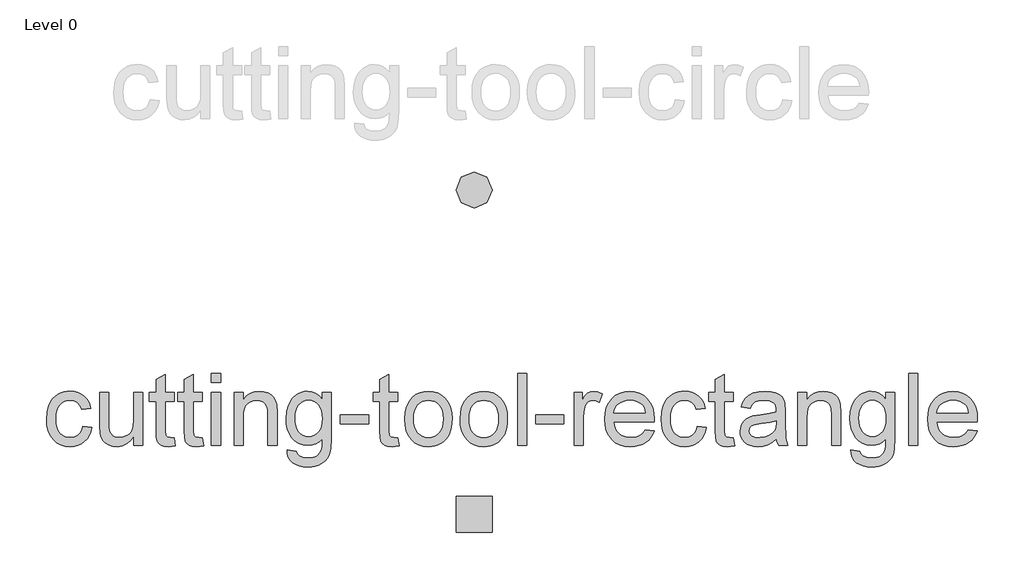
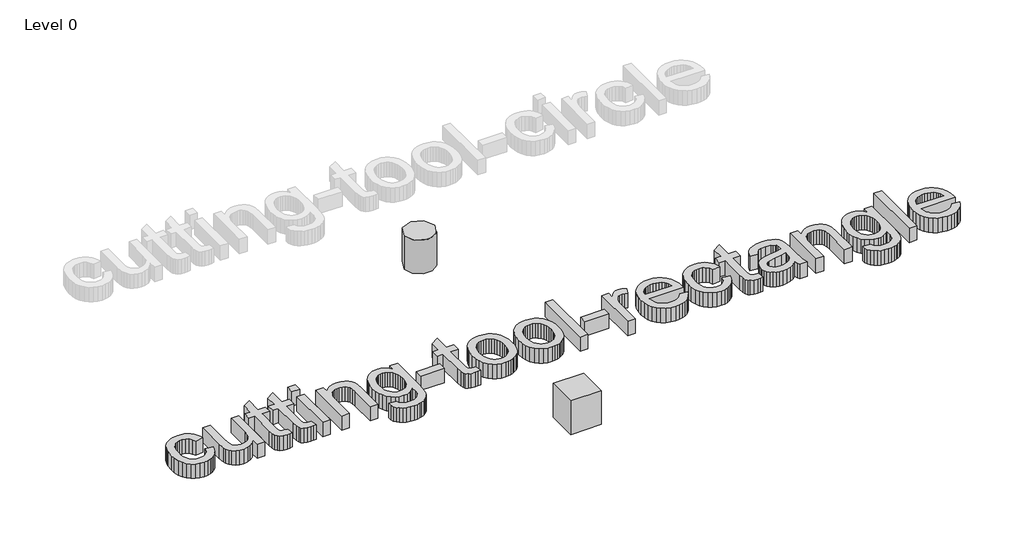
# One storey, part 4 of 5: 3 proxies.
"""IFC4 building model written with IfcOpenShell, lengths in millimetres."""

import ifcopenshell
import ifcopenshell.guid

model = None  # the IFC model being written
_history = None  # IfcOwnerHistory: only IFC2X3 demands one
_inside = {}  # id of a spatial element -> (the spatial element, [elements in it])
_under = {}  # id of a project, library or spatial element -> (it, [spatial elements below it])
_declared = {}  # id of a project -> (the project, [libraries it declares])
_typed = {}  # id of a type object -> (the type object, [elements of that type])
_made_of = {}  # id of a material, layer set ... -> (it, [elements and type objects made of it])


def new_model(schema):
    """Start an empty IFC model of exactly this schema.

    Asked for "IFC4X3", IfcOpenShell would pick the latest addendum, in which some entities
    have other attributes; the version numbers below select the first issue.
    IFC2X3 requires an IfcOwnerHistory on every rooted entity: one is made here for all.
    """
    global model, _history
    if schema == "IFC4X3":
        model = ifcopenshell.file(schema_version=(4, 3, 0, 0))
    else:
        model = ifcopenshell.file(schema=schema)
    _inside.clear()
    _under.clear()
    _declared.clear()
    _typed.clear()
    _made_of.clear()
    _history = None
    if model.schema == "IFC2X3":
        org = make("IfcOrganization", Name="unknown")
        user = make(
            "IfcPersonAndOrganization",
            ThePerson=make("IfcPerson", FamilyName="unknown"),
            TheOrganization=org,
        )
        app = make(
            "IfcApplication",
            ApplicationDeveloper=org,
            Version="unknown",
            ApplicationFullName="unknown",
            ApplicationIdentifier="unknown",
        )
        _history = make(
            "IfcOwnerHistory",
            OwningUser=user,
            OwningApplication=app,
            ChangeAction="ADDED",
            CreationDate=0,
        )
    return model


def make(cls, **values):
    """One entity of the class cls with the attributes given. An attribute that is None is left unset."""
    return model.create_entity(
        cls, **{name: value for name, value in values.items() if value is not None}
    )


def rooted(cls, **values):
    """An entity with a GlobalId (a new one), such as an element, a storey or a relation."""
    return make(cls, GlobalId=ifcopenshell.guid.new(), OwnerHistory=_history, **values)


def si_unit(unit_type, name, prefix=None):
    """IfcSIUnit, for example si_unit("LENGTHUNIT", "METRE", prefix="MILLI")."""
    return make("IfcSIUnit", UnitType=unit_type, Prefix=prefix, Name=name)


def assignment(units):
    """IfcUnitAssignment: the units of a project."""
    return None if units is None else make("IfcUnitAssignment", Units=units)


def point(xyz):
    """IfcCartesianPoint."""
    return None if xyz is None else make("IfcCartesianPoint", Coordinates=xyz)


def direction(xyz):
    """IfcDirection."""
    return None if xyz is None else make("IfcDirection", DirectionRatios=xyz)


def frame(location, z_axis=None, x_axis=None):
    """IfcAxis2Placement3D, a coordinate frame: its origin and axes. An axis left out is left unset."""
    return make(
        "IfcAxis2Placement3D",
        Location=point(location),
        Axis=direction(z_axis),
        RefDirection=direction(x_axis),
    )


def frame_2d(location, x_axis=None):
    """IfcAxis2Placement2D, a coordinate frame in the plane: its origin and x axis."""
    return make(
        "IfcAxis2Placement2D", Location=point(location), RefDirection=direction(x_axis)
    )


def origin():
    """The frame at (0, 0, 0) with its axes left unset."""
    return frame((0.0, 0.0, 0.0))


def origin_with_axes():
    """The frame at (0, 0, 0) with the z axis (0, 0, 1) and the x axis (1, 0, 0) written out."""
    return frame((0.0, 0.0, 0.0), z_axis=(0.0, 0.0, 1.0), x_axis=(1.0, 0.0, 0.0))


def origin_2d():
    """The frame at (0, 0) in the plane with its x axis left unset."""
    return frame_2d((0.0, 0.0))


def place(relative_to, where):
    """IfcLocalPlacement: puts the frame where relative to a parent placement (None: the world)."""
    return make(
        "IfcLocalPlacement", PlacementRelTo=relative_to, RelativePlacement=where
    )


def context(
    kind, dimensions, precision=None, world=None, true_north=None, identifier=None
):
    """IfcGeometricRepresentationContext, for example the 3D "Model" context."""
    return make(
        "IfcGeometricRepresentationContext",
        ContextIdentifier=identifier,
        ContextType=kind,
        CoordinateSpaceDimension=dimensions,
        Precision=precision,
        WorldCoordinateSystem=world,
        TrueNorth=true_north,
    )


def project(units=None, contexts=None):
    """IfcProject with its units and contexts."""
    return rooted(
        "IfcProject",
        Name="project",
        RepresentationContexts=contexts,
        UnitsInContext=assignment(units),
    )


def spatial(cls, under=None, at=None, **own):
    """A site, building, storey or space (cls), placed at a placement, below another one or the project."""
    s = rooted(cls, ObjectPlacement=at, **own)
    if under is not None:
        _under.setdefault(under.id(), (under, []))[1].append(s)
    return s


def polyline(points):
    """IfcPolyline through the points."""
    return make("IfcPolyline", Points=[point(p) for p in points])


def circle_curve(where, radius):
    """IfcCircle in the frame where."""
    return make("IfcCircle", Position=where, Radius=radius)


def trimmed(basis, trim1, trim2, sense, master):
    """IfcTrimmedCurve: the piece of a basis curve between two trims."""
    return make(
        "IfcTrimmedCurve",
        BasisCurve=basis,
        Trim1=trim1,
        Trim2=trim2,
        SenseAgreement=sense,
        MasterRepresentation=master,
    )


def segment(curve, same_sense, transition):
    """IfcCompositeCurveSegment."""
    return make(
        "IfcCompositeCurveSegment",
        Transition=transition,
        SameSense=same_sense,
        ParentCurve=curve,
    )


def composite_curve(segments, self_intersect=None):
    """IfcCompositeCurve: segments joined end to end."""
    return make("IfcCompositeCurve", Segments=segments, SelfIntersect=self_intersect)


def outline(outer, holes=None, kind="AREA"):
    """IfcArbitraryClosedProfileDef: a profile drawn as a closed curve; with holes, ...WithVoids."""
    if holes is None:
        return make("IfcArbitraryClosedProfileDef", ProfileType=kind, OuterCurve=outer)
    return make(
        "IfcArbitraryProfileDefWithVoids",
        ProfileType=kind,
        OuterCurve=outer,
        InnerCurves=holes,
    )


def extrude(swept, where, along, depth):
    """IfcExtrudedAreaSolid: the profile swept, set in the frame where, extruded along a direction by depth."""
    return make(
        "IfcExtrudedAreaSolid",
        SweptArea=swept,
        Position=where,
        ExtrudedDirection=direction(along),
        Depth=depth,
    )


def shape(context_of_items, identifier, shape_type, items):
    """IfcShapeRepresentation: the items that make up one representation, for example the "Body"."""
    return make(
        "IfcShapeRepresentation",
        ContextOfItems=context_of_items,
        RepresentationIdentifier=identifier,
        RepresentationType=shape_type,
        Items=items,
    )


def source(mapping_origin, context_of_items, identifier, shape_type, items):
    """IfcRepresentationMap: a shape defined once, which mapped items show again and again."""
    return make(
        "IfcRepresentationMap",
        MappingOrigin=mapping_origin,
        MappedRepresentation=shape(context_of_items, identifier, shape_type, items),
    )


def transform(
    local_origin,
    x_axis=None,
    y_axis=None,
    z_axis=None,
    scale=None,
    scale2=None,
    scale3=None,
    uniform=True,
):
    """IfcCartesianTransformationOperator3D, or its non-uniform kind. x_axis, y_axis, z_axis: its Axis1, 2, 3."""
    if uniform:
        return make(
            "IfcCartesianTransformationOperator3D",
            Axis1=direction(x_axis),
            Axis2=direction(y_axis),
            LocalOrigin=point(local_origin),
            Scale=scale,
            Axis3=direction(z_axis),
        )
    return make(
        "IfcCartesianTransformationOperator3DnonUniform",
        Axis1=direction(x_axis),
        Axis2=direction(y_axis),
        LocalOrigin=point(local_origin),
        Scale=scale,
        Axis3=direction(z_axis),
        Scale2=scale2,
        Scale3=scale3,
    )


def mapped(mapping_source, mapping_target):
    """IfcMappedItem: shows the shape of a source again, moved by a transform."""
    return make(
        "IfcMappedItem", MappingSource=mapping_source, MappingTarget=mapping_target
    )


def made_of(thing, what):
    """Note that an element or type object is made of a material, layer set ...; save() writes the relation."""
    if what is not None:
        _made_of.setdefault(what.id(), (what, []))[1].append(thing)
    return thing


def element(
    cls,
    number,
    at=None,
    inside=None,
    cuts=None,
    type_object=None,
    material=None,
    context=None,
    identifier="Body",
    shape_type=None,
    held_by="IfcProductDefinitionShape",
    body=None,
    shapes=None,
    **own,
):
    """One element of the class cls, such as IfcWall. Its Tag is "e" and its number.

    at: its placement. inside: the storey or other place that contains it. cuts: it is an
    opening in that element (IfcRelVoidsElement). A single representation is given by context,
    identifier, shape_type and body (its items); several are given by shapes. held_by: the class
    of the entity that holds the representations. save() writes the other relations.
    """
    e = rooted(cls, Tag="e%d" % number, ObjectPlacement=at, **own)
    if body is not None:
        shapes = [shape(context, identifier, shape_type, body)]
    if shapes is not None:
        e.Representation = make(held_by, Representations=shapes)
    if inside is not None:
        _inside.setdefault(inside.id(), (inside, []))[1].append(e)
    if cuts is not None:
        rooted(
            "IfcRelVoidsElement", RelatingBuildingElement=cuts, RelatedOpeningElement=e
        )
    if type_object is not None:
        _typed.setdefault(type_object.id(), (type_object, []))[1].append(e)
    return made_of(e, material)


def aggregate(whole, parts):
    """IfcRelAggregates: a whole, such as a stair, and the parts it consists of."""
    return rooted("IfcRelAggregates", RelatingObject=whole, RelatedObjects=parts)


def save(model, path):
    """Write the relations noted so far, then the file.

    IfcRelAggregates (storeys below a building ...), IfcRelContainedInSpatialStructure (elements
    in a storey), IfcRelDefinesByType, IfcRelAssociatesMaterial and IfcRelDeclares: one each for
    every whole, place, type object, material and project.
    """
    for whole, parts in _under.values():
        aggregate(whole, parts)
    for where, things in _inside.values():
        rooted(
            "IfcRelContainedInSpatialStructure",
            RelatedElements=things,
            RelatingStructure=where,
        )
    for kind, things in _typed.values():
        rooted("IfcRelDefinesByType", RelatedObjects=things, RelatingType=kind)
    for what, things in _made_of.values():
        rooted("IfcRelAssociatesMaterial", RelatedObjects=things, RelatingMaterial=what)
    for by, libraries in _declared.values():
        rooted("IfcRelDeclares", RelatingContext=by, RelatedDefinitions=libraries)
    model.write(path)


def kingspan_ks_cutting_tool_circle_cutting_tool_circle_f6fe257a(model_context):
    return source(origin(), model_context, "Body", "SweptSolid", [
        extrude(outline(composite_curve([segment(trimmed(circle_curve(origin_2d(), 152.4), [point((-152.4, 0.0))], [point((152.4, 0.0))], False, "CARTESIAN"), True, "CONTINUOUS"), segment(trimmed(circle_curve(origin_2d(), 152.4), [point((152.4, 0.0))], [point((-152.4, 0.0))], False, "CARTESIAN"), True, "CONTINUOUS")], self_intersect=False)), frame((0.0, 0.0, -254.0), z_axis=(0.0, 0.0, 1.0), x_axis=(1.0, 0.0, 0.0)), (0.0, 0.0, 1.0), 355.6),
    ])


def kingspan_ks_cutting_tool_rectangle_cutting_tool_rectangle_f435e5aa(model_context):
    return source(origin(), model_context, "Body", "SweptSolid", [
        extrude(outline(polyline([(152.4, 152.4), (152.4, -152.4), (-152.4, -152.4), (-152.4, 152.4), (152.4, 152.4)])), frame((0.0, 0.0, -254.0), z_axis=(0.0, 0.0, 1.0), x_axis=(1.0, 0.0, 0.0)), (0.0, 0.0, 1.0), 355.6),
    ])


model = new_model("IFC4")

# Units and contexts
model_context = context("Model", 3, world=origin())
ifc_project = project(units=[si_unit("LENGTHUNIT", "METRE", prefix="MILLI")], contexts=[model_context])

# Site, building, storey
site = spatial("IfcSite", under=ifc_project)
building = spatial("IfcBuilding", under=site)
storey = spatial("IfcBuildingStorey", under=building, Name="Level 0", Elevation=0.0)

# Proxies
placement = place(None, origin())
element("IfcBuildingElementProxy", 1, Name="24\" Arial", ObjectType="24\" Arial", at=placement, inside=storey, context=model_context, shape_type="SweptSolid", body=[
    extrude(outline(polyline([(52.7726756, 9953.5694492), (128.9144492, 9944.0517275), (120.6329159, 9908.1232576), (107.6854684, 9876.330907), (90.0721064, 9848.6746756), (67.7928302, 9825.1545636), (41.7863992, 9806.3840177), (12.9915733, 9792.976485), (-18.5916477, 9784.9319653), (-52.9632638, 9782.2504588), (-95.6675336, 9785.9915554), (-133.9568446, 9797.2148454), (-167.8311969, 9815.9203287), (-197.2905903, 9842.1080053), (-221.1360151, 9875.2852588), (-238.1684614, 9914.9594727), (-248.3879292, 9961.130647), (-251.7944184, 10013.7987817), (-245.9759675, 10081.5567809), (-238.7029038, 10112.0478805), (-228.5206146, 10140.2803801), (-215.3593901, 10165.6873062), (-199.1495203, 10187.7016849), (-179.8910053, 10206.3235163), (-157.5838451, 10221.5528005), (-133.2365092, 10233.3941847), (-107.8574672, 10241.8523163), (-81.4467189, 10246.9271952), (-54.0042646, 10248.6188216), (-20.2228588, 10246.295159), (10.3333033, 10239.3241715), (37.6642219, 10227.7058589), (61.7698969, 10211.4402212), (82.2413637, 10190.8990445), (98.6696578, 10166.4541148), (111.054779, 10138.105432), (119.3967275, 10105.8529962), (43.254954, 10096.3352745), (29.4431039, 10129.5543539), (7.9352836, 10153.3672475), (-20.0787917, 10167.6995979), (-53.409407, 10172.477048), (-79.2810655, 10170.1255016), (-102.6152845, 10163.0708622), (-123.4120641, 10151.3131298), (-141.6714042, 10134.8523045), (-156.538197, 10113.3073056), (-167.1573347, 10086.2970524), (-173.5288174, 10053.821545), (-175.6526449, 10015.8807834), (-173.5752906, 9977.3684007), (-167.3432277, 9944.51646), (-156.9564563, 9917.3249612), (-142.4149762, 9895.7939042), (-124.5181275, 9879.4306728), (-104.0652499, 9867.7426503), (-81.0563436, 9860.7298368), (-55.4914086, 9858.3922323), (-16.0635029, 9864.2292725), (0.9875327, 9871.5255729), (16.2632901, 9881.7403933), (29.3362154, 9894.9852697), (39.7787548, 9911.3717378), (47.5909082, 9930.8997976), (52.7726756, 9953.5694492)])), origin_with_axes(), (0.0, 0.0, 1.0), 152.4),
    extrude(outline(polyline([(481.0701517, 9791.7681805), (481.0701517, 9868.653526), (453.5208088, 9830.8521841), (421.4356767, 9803.8512256), (384.8147554, 9787.6506505), (343.6580448, 9782.2504588), (306.5723909, 9786.042676), (272.0520605, 9797.4193277), (243.0899308, 9814.5214839), (222.6788792, 9835.4902145), (208.9413864, 9860.9575557), (199.999933, 9891.5555438), (195.538501, 9962.3435989), (195.538501, 10239.1010999), (271.6802745, 10239.1010999), (271.6802745, 9998.1837696), (272.8328111, 9950.0003035), (276.2904209, 9920.5548521), (287.3882332, 9894.6599569), (306.4050872, 9874.973888), (332.0769108, 9862.5376462), (363.1396314, 9858.3922323), (395.9869248, 9862.6305927), (426.715038, 9875.345674), (452.0522541, 9895.3663503), (468.7268564, 9921.5214957), (477.9843278, 9957.3430771), (481.0701517, 10006.3630617), (481.0701517, 10239.1010999), (557.2119252, 10239.1010999), (557.2119252, 9791.7681805), (481.0701517, 9791.7681805)])), origin_with_axes(), (0.0, 0.0, 1.0), 152.4),
    extrude(outline(polyline([(823.7081325, 9855.2692299), (833.2258542, 9789.5374644), (803.0740093, 9784.0722102), (776.2682385, 9782.2504588), (739.7216743, 9785.4106398), (712.4697603, 9794.8911829), (693.2112453, 9809.5023728), (680.6448784, 9828.0544944), (673.7296587, 9859.9165549), (671.4245855, 9914.4575616), (671.4245855, 10162.9593263), (614.3182553, 10162.9593263), (614.3182553, 10239.1010999), (671.4245855, 10239.1010999), (671.4245855, 10347.8113273), (747.566359, 10392.5743621), (747.566359, 10239.1010999), (823.7081325, 10239.1010999), (823.7081325, 10162.9593263), (747.566359, 10162.9593263), (747.566359, 9916.6882776), (751.5816478, 9877.4276757), (764.5941579, 9863.5228791), (775.5804343, 9859.674894), (790.544821, 9858.3922323), (823.7081325, 9855.2692299)])), origin_with_axes(), (0.0, 0.0, 1.0), 152.4),
    extrude(outline(polyline([(1061.6511747, 9855.2692299), (1071.1688964, 9789.5374644), (1041.0170515, 9784.0722102), (1014.2112807, 9782.2504588), (977.6647166, 9785.4106398), (950.4128025, 9794.8911829), (931.1542875, 9809.5023728), (918.5879206, 9828.0544944), (911.6727009, 9859.9165549), (909.3676277, 9914.4575616), (909.3676277, 10162.9593263), (852.2612976, 10162.9593263), (852.2612976, 10239.1010999), (909.3676277, 10239.1010999), (909.3676277, 10347.8113273), (985.5094012, 10392.5743621), (985.5094012, 10239.1010999), (1061.6511747, 10239.1010999), (1061.6511747, 10162.9593263), (985.5094012, 10162.9593263), (985.5094012, 9916.6882776), (989.5246901, 9877.4276757), (1002.5372002, 9863.5228791), (1013.5234766, 9859.674894), (1028.4878632, 9858.3922323), (1061.6511747, 9855.2692299)])), origin_with_axes(), (0.0, 0.0, 1.0), 152.4),
    extrude(outline(polyline([(1137.7929483, 10324.7605951), (1137.7929483, 10400.9023686), (1213.9347218, 10400.9023686), (1213.9347218, 10324.7605951), (1137.7929483, 10324.7605951)])), origin_with_axes(), (0.0, 0.0, 1.0), 152.4),
    extrude(outline(polyline([(1137.7929483, 9791.7681805), (1137.7929483, 10239.1010999), (1213.9347218, 10239.1010999), (1213.9347218, 9791.7681805), (1137.7929483, 9791.7681805)])), origin_with_axes(), (0.0, 0.0, 1.0), 152.4),
    extrude(outline(polyline([(1328.1473821, 9791.7681805), (1328.1473821, 10239.1010999), (1404.2891556, 10239.1010999), (1404.2891556, 10176.6410513), (1430.7417297, 10208.1313258), (1462.5108437, 10230.624379), (1499.5964976, 10244.1202109), (1541.9986913, 10248.6188216), (1579.5304883, 10244.993908), (1613.9021043, 10234.1191674), (1642.5668052, 10217.3516187), (1662.9778568, 10196.0482807), (1676.8268854, 10170.2649213), (1685.8055174, 10140.0573085), (1689.8208063, 10066.4436798), (1689.8208063, 9791.7681805), (1613.6790327, 9791.7681805), (1613.6790327, 10056.1823861), (1611.4854953, 10095.5545239), (1604.9048831, 10123.55001), (1592.76607, 10143.6078649), (1573.8979304, 10159.1671091), (1549.7132508, 10169.1495633), (1521.6248183, 10172.477048), (1498.5043762, 10170.6088234), (1477.0290872, 10165.0041494), (1457.1989512, 10155.663026), (1439.0139683, 10142.5854534), (1423.8218627, 10124.2842873), (1412.9703588, 10099.2723839), (1406.4594564, 10067.5497432), (1404.2891556, 10029.1163651), (1404.2891556, 9791.7681805), (1328.1473821, 9791.7681805)])), origin_with_axes(), (0.0, 0.0, 1.0), 152.4),
    extrude(outline(polyline([(1775.4803015, 9753.6972937), (1851.622075, 9744.179572), (1860.0244387, 9720.3852678), (1876.3086656, 9704.0266836), (1908.3194405, 9691.3116023), (1950.2197231, 9687.0732419), (1994.9084007, 9691.8692813), (2012.9586112, 9697.8643306), (2028.1460694, 9706.2573996), (2051.1968017, 9729.3081319), (2065.3246698, 9760.092013), (2069.4514944, 9792.8463599), (2070.5296738, 9848.8745106), (2045.1924577, 9823.8904912), (2016.9181321, 9806.044763), (1985.7066971, 9795.3373261), (1951.5581527, 9791.7681805), (1909.8112319, 9795.922889), (1873.0555381, 9808.3870148), (1841.2910714, 9829.1605578), (1814.5178318, 9858.2435179), (1793.2749091, 9893.1356343), (1778.1013928, 9931.3366462), (1768.997283, 9972.8465535), (1765.9625798, 10017.6653562), (1771.4092447, 10079.1401719), (1787.7492396, 10135.6702337), (1799.8601686, 10161.1608116), (1814.406296, 10183.5748602), (1831.3876217, 10202.9123798), (1850.8041458, 10219.1733701), (1872.3444974, 10232.0557551), (1895.6973057, 10241.2574587), (1920.8625708, 10246.7784808), (1947.8402927, 10248.6188216), (1983.4480972, 10244.4548183), (2015.7655955, 10231.9628086), (2044.7927878, 10211.1427924), (2070.5296738, 10181.9947697), (2070.5296738, 10239.1010999), (2146.6714474, 10239.1010999), (2146.6714474, 9852.8897994), (2141.4664433, 9763.7169265), (2134.9601883, 9730.5489677), (2125.8514312, 9704.9933272), (2113.9217478, 9684.3824407), (2098.9527138, 9666.0487434), (2080.9443293, 9649.9922353), (2059.8965941, 9636.2129166), (2036.0232854, 9625.152283), (2009.53818, 9617.2518304), (1980.4412779, 9612.5115589), (1948.7325791, 9610.9314684), (1911.428501, 9613.157537), (1877.8887561, 9619.8357431), (1848.1133446, 9630.9660866), (1822.1022663, 9646.5485675), (1801.0917098, 9666.6017751), (1786.3178635, 9691.1442986), (1777.7807274, 9720.1761382), (1775.4803015, 9753.6972937)]), holes=[polyline([(1842.1043533, 10022.8703602), (1844.1352343, 9985.2223801), (1850.2278775, 9953.0303595), (1860.3822827, 9926.2942985), (1874.59845, 9905.0141971), (1891.8818518, 9888.7810907), (1911.2379606, 9877.1860148), (1932.6667764, 9870.2289692), (1956.1682992, 9867.909954), (1979.4374557, 9870.2150272), (2000.7640303, 9877.1302469), (2020.148023, 9888.655613), (2037.5894339, 9904.7911255), (2052.0007889, 9925.8620973), (2062.2946139, 9952.193841), (2068.4709088, 9983.7863566), (2070.5296738, 10020.6396442), (2068.4104936, 10055.9546672), (2062.052953, 10086.6502491), (2051.4570519, 10112.72639), (2036.6227903, 10134.1830897), (2018.8049461, 10150.9366965), (1999.258297, 10162.9035584), (1977.9828429, 10170.0836756), (1954.978584, 10172.477048), (1932.360053, 10170.1208542), (1911.4982108, 10163.0522729), (1892.3930576, 10151.2713039), (1875.0445932, 10134.7779473), (1860.6332382, 10113.6465603), (1850.3394133, 10087.9515001), (1844.1631183, 10057.6927668), (1842.1043533, 10022.8703602)])]), origin_with_axes(), (0.0, 0.0, 1.0), 152.4),
    extrude(outline(polyline([(2222.8132209, 9972.6048926), (2222.8132209, 10048.7466661), (2460.7562631, 10048.7466661), (2460.7562631, 9972.6048926), (2222.8132209, 9972.6048926)])), origin_with_axes(), (0.0, 0.0, 1.0), 152.4),
    extrude(outline(polyline([(2708.217027, 9855.2692299), (2717.7347487, 9789.5374644), (2687.5829039, 9784.0722102), (2660.777133, 9782.2504588), (2624.2305689, 9785.4106398), (2596.9786548, 9794.8911829), (2577.7201398, 9809.5023728), (2565.1537729, 9828.0544944), (2558.2385532, 9859.9165549), (2555.93348, 9914.4575616), (2555.93348, 10162.9593263), (2498.8271499, 10162.9593263), (2498.8271499, 10239.1010999), (2555.93348, 10239.1010999), (2555.93348, 10347.8113273), (2632.0752535, 10392.5743621), (2632.0752535, 10239.1010999), (2708.217027, 10239.1010999), (2708.217027, 10162.9593263), (2632.0752535, 10162.9593263), (2632.0752535, 9916.6882776), (2636.0905424, 9877.4276757), (2649.1030525, 9863.5228791), (2660.0893289, 9859.674894), (2675.0537155, 9858.3922323), (2708.217027, 9855.2692299)])), origin_with_axes(), (0.0, 0.0, 1.0), 152.4),
    extrude(outline(polyline([(2765.3233572, 10015.4346402), (2769.4408872, 10073.3681942), (2781.7934771, 10123.2897598), (2802.3811271, 10165.199337), (2831.203837, 10199.0969259), (2860.2217346, 10220.7627552), (2892.2510988, 10236.2383476), (2927.2919296, 10245.5237031), (2965.3442271, 10248.6188216), (3007.3513981, 10244.8498409), (3045.3339857, 10233.5428991), (3079.2919898, 10214.6979961), (3109.2254104, 10188.3151318), (3133.6563982, 10155.2865927), (3151.1071037, 10116.5046652), (3161.577527, 10071.9693493), (3165.0676682, 10021.680645), (3163.5247562, 9980.9236044), (3158.8960205, 9944.7581209), (3151.1814609, 9913.1841945), (3140.3810775, 9886.2018253), (3126.6296427, 9862.8954902), (3110.0619289, 9842.3496662), (3090.6779362, 9824.5643533), (3068.4776644, 9809.5395514), (3044.3255162, 9797.6005734), (3019.0858939, 9789.0727319), (2992.7587975, 9783.9560271), (2965.3442271, 9782.2504588), (2922.7236091, 9786.0054974), (2884.3878248, 9797.2706133), (2850.3368742, 9816.0458065), (2820.5707573, 9842.3310769), (2796.4000198, 9875.6802814), (2779.1352072, 9915.6472768), (2768.7763197, 9962.2320631), (2765.3233572, 10015.4346402)]), holes=[polyline([(2841.4651307, 10015.5833546), (2843.6679628, 9978.6510624), (2850.276459, 9946.6728188), (2861.2906193, 9919.6486237), (2876.7104438, 9897.5784771), (2895.4670477, 9880.434495), (2916.4915462, 9868.1887935), (2939.7839393, 9860.8413726), (2965.3442271, 9858.3922323), (2990.7743897, 9860.8553146), (3013.9738363, 9868.2445614), (3034.9425669, 9880.5599727), (3053.6805815, 9897.8015487), (3069.100406, 9920.0901196), (3080.1145664, 9947.5465159), (3086.7230626, 9980.1707377), (3088.9258946, 10017.962785), (3086.7091206, 10053.7239512), (3080.0587985, 10084.8656763), (3068.9749282, 10111.3879603), (3053.4575099, 10133.2908033), (3034.6497854, 10150.4347854), (3013.6949968, 10162.6804868), (2990.593144, 10170.0279077), (2965.3442271, 10172.477048), (2939.7839393, 10170.0372024), (2916.4915462, 10162.7176654), (2895.4670477, 10150.5184372), (2876.7104438, 10133.4395177), (2861.2906193, 10111.4344336), (2850.276459, 10084.4567117), (2843.6679628, 10052.506352), (2841.4651307, 10015.5833546)])]), origin_with_axes(), (0.0, 0.0, 1.0), 152.4),
    extrude(outline(polyline([(3231.69172, 10015.4346402), (3235.80925, 10073.3681942), (3248.1618399, 10123.2897598), (3268.7494899, 10165.199337), (3297.5721998, 10199.0969259), (3326.5900974, 10220.7627552), (3358.6194616, 10236.2383476), (3393.6602924, 10245.5237031), (3431.7125899, 10248.6188216), (3473.7197609, 10244.8498409), (3511.7023485, 10233.5428991), (3545.6603526, 10214.6979961), (3575.5937732, 10188.3151318), (3600.024761, 10155.2865927), (3617.4754665, 10116.5046652), (3627.9458898, 10071.9693493), (3631.4360309, 10021.680645), (3629.893119, 9980.9236044), (3625.2643833, 9944.7581209), (3617.5498237, 9913.1841945), (3606.7494403, 9886.2018253), (3592.9980055, 9862.8954902), (3576.4302917, 9842.3496662), (3557.046299, 9824.5643533), (3534.8460272, 9809.5395514), (3510.693879, 9797.6005734), (3485.4542567, 9789.0727319), (3459.1271603, 9783.9560271), (3431.7125899, 9782.2504588), (3389.0919719, 9786.0054974), (3350.7561876, 9797.2706133), (3316.705237, 9816.0458065), (3286.9391201, 9842.3310769), (3262.7683825, 9875.6802814), (3245.50357, 9915.6472768), (3235.1446825, 9962.2320631), (3231.69172, 10015.4346402)]), holes=[polyline([(3307.8334935, 10015.5833546), (3310.0363256, 9978.6510624), (3316.6448218, 9946.6728188), (3327.6589821, 9919.6486237), (3343.0788066, 9897.5784771), (3361.8354105, 9880.434495), (3382.859909, 9868.1887935), (3406.1523021, 9860.8413726), (3431.7125899, 9858.3922323), (3457.1427525, 9860.8553146), (3480.3421991, 9868.2445614), (3501.3109297, 9880.5599727), (3520.0489443, 9897.8015487), (3535.4687688, 9920.0901196), (3546.4829291, 9947.5465159), (3553.0914254, 9980.1707377), (3555.2942574, 10017.962785), (3553.0774834, 10053.7239512), (3546.4271612, 10084.8656763), (3535.343291, 10111.3879603), (3519.8258727, 10133.2908033), (3501.0181482, 10150.4347854), (3480.0633596, 10162.6804868), (3456.9615068, 10170.0279077), (3431.7125899, 10172.477048), (3406.1523021, 10170.0372024), (3382.859909, 10162.7176654), (3361.8354105, 10150.5184372), (3343.0788066, 10133.4395177), (3327.6589821, 10111.4344336), (3316.6448218, 10084.4567117), (3310.0363256, 10052.506352), (3307.8334935, 10015.5833546)])]), origin_with_axes(), (0.0, 0.0, 1.0), 152.4),
    extrude(outline(polyline([(3717.0955262, 9791.7681805), (3717.0955262, 10400.9023686), (3793.2372997, 10400.9023686), (3793.2372997, 9791.7681805), (3717.0955262, 9791.7681805)])), origin_with_axes(), (0.0, 0.0, 1.0), 152.4),
    extrude(outline(polyline([(3869.3790732, 9972.6048926), (3869.3790732, 10048.7466661), (4107.3221154, 10048.7466661), (4107.3221154, 9972.6048926), (3869.3790732, 9972.6048926)])), origin_with_axes(), (0.0, 0.0, 1.0), 152.4),
    extrude(outline(polyline([(4192.9816106, 9791.7681805), (4192.9816106, 10239.1010999), (4259.6056625, 10239.1010999), (4259.6056625, 10172.9231912), (4284.2178959, 10211.2915068), (4306.8968421, 10233.8960958), (4329.6501455, 10244.9381401), (4354.4854506, 10248.6188216), (4392.4076229, 10242.7446027), (4430.9246529, 10225.1219461), (4405.4944902, 10156.8620359), (4378.725898, 10168.573295), (4351.9573057, 10172.477048), (4329.2225916, 10168.7220094), (4308.9044865, 10157.4568935), (4292.4901345, 10139.5368081), (4281.4666795, 10115.8168611), (4272.209208, 10073.2845423), (4269.1233841, 10026.8856491), (4269.1233841, 9791.7681805), (4192.9816106, 9791.7681805)])), origin_with_axes(), (0.0, 0.0, 1.0), 152.4),
    extrude(outline(polyline([(4791.7057907, 9925.0162841), (4866.3604202, 9915.4985624), (4854.9140586, 9885.5976731), (4839.4617028, 9859.2473401), (4820.0033529, 9836.4475634), (4796.5390087, 9817.1983431), (4769.3103313, 9801.9086437), (4738.5589815, 9790.9874298), (4704.2849593, 9784.4347015), (4666.4882647, 9782.2504588), (4619.2435583, 9786.0194394), (4577.1480881, 9797.3263812), (4540.201854, 9816.1712843), (4508.404856, 9842.5541485), (4482.8352736, 9875.7406967), (4464.5712862, 9914.9966513), (4453.6128937, 9960.3220125), (4449.9600963, 10011.7167801), (4453.6500723, 10064.8542947), (4464.7200006, 10111.6900365), (4483.169881, 10152.2240055), (4508.9997136, 10186.4562018), (4540.7130597, 10213.6523479), (4576.8134806, 10233.0781666), (4617.3009764, 10244.7336578), (4662.1755471, 10248.6188216), (4705.6047996, 10244.7429525), (4744.8793435, 10233.1153452), (4779.9991789, 10213.7359998), (4810.9643057, 10186.6049162), (4836.2411066, 10152.4470771), (4854.2959644, 10111.9874653), (4865.128879, 10065.2260807), (4868.7398506, 10012.1629233), (4868.2937074, 9991.6403359), (4526.1018698, 9991.6403359), (4530.5121812, 9961.2561248), (4539.2816836, 9934.6455416), (4552.4103768, 9911.8085863), (4569.898261, 9892.745259), (4590.7786924, 9877.7158098), (4614.0850275, 9866.980489), (4639.8172663, 9860.5392965), (4667.9754087, 9858.3922323), (4708.5000831, 9862.3703425), (4742.6300382, 9874.3046732), (4770.3652741, 9894.9387964), (4791.7057907, 9925.0162841)]), holes=[polyline([(4526.1018698, 10067.7821095), (4792.5980771, 10067.7821095), (4782.2996048, 10108.009355), (4773.4418032, 10123.8288495), (4762.1116248, 10136.7855917), (4741.3473765, 10152.4006039), (4717.720376, 10163.554184), (4691.2306232, 10170.246332), (4661.8781182, 10172.477048), (4635.1048787, 10170.6971225), (4610.5530605, 10165.3573461), (4588.2226636, 10156.4577186), (4568.1136882, 10143.9982402), (4551.2392509, 10128.5551791), (4538.6124688, 10110.7048036), (4530.2333417, 10090.4471137), (4526.1018698, 10067.7821095)])]), origin_with_axes(), (0.0, 0.0, 1.0), 152.4),
    extrude(outline(polyline([(5230.4132748, 9953.5694492), (5306.5550483, 9944.0517275), (5298.2735151, 9908.1232576), (5285.3260675, 9876.330907), (5267.7127056, 9848.6746756), (5245.4334293, 9825.1545636), (5219.4269984, 9806.3840177), (5190.6321724, 9792.976485), (5159.0489514, 9784.9319653), (5124.6773354, 9782.2504588), (5081.9730656, 9785.9915554), (5043.6837545, 9797.2148454), (5009.8094023, 9815.9203287), (4980.3500088, 9842.1080053), (4956.504584, 9875.2852588), (4939.4721378, 9914.9594727), (4929.25267, 9961.130647), (4925.8461807, 10013.7987817), (4931.6646317, 10081.5567809), (4938.9376954, 10112.0478805), (4949.1199846, 10140.2803801), (4962.2812091, 10165.6873062), (4978.4910788, 10187.7016849), (4997.7495938, 10206.3235163), (5020.056754, 10221.5528005), (5044.4040899, 10233.3941847), (5069.783132, 10241.8523163), (5096.1938802, 10246.9271952), (5123.6363346, 10248.6188216), (5157.4177403, 10246.295159), (5187.9739025, 10239.3241715), (5215.3048211, 10227.7058589), (5239.4104961, 10211.4402212), (5259.8819629, 10190.8990445), (5276.3102569, 10166.4541148), (5288.6953782, 10138.105432), (5297.0373266, 10105.8529962), (5220.8955531, 10096.3352745), (5207.0837031, 10129.5543539), (5185.5758828, 10153.3672475), (5157.5618074, 10167.6995979), (5124.2311922, 10172.477048), (5098.3595337, 10170.1255016), (5075.0253146, 10163.0708622), (5054.2285351, 10151.3131298), (5035.969195, 10134.8523045), (5021.1024022, 10113.3073056), (5010.4832644, 10086.2970524), (5004.1117818, 10053.821545), (5001.9879543, 10015.8807834), (5004.0653085, 9977.3684007), (5010.2973714, 9944.51646), (5020.6841429, 9917.3249612), (5035.225623, 9895.7939042), (5053.1224717, 9879.4306728), (5073.5753492, 9867.7426503), (5096.5842555, 9860.7298368), (5122.1491906, 9858.3922323), (5161.5770963, 9864.2292725), (5178.6281318, 9871.5255729), (5193.9038893, 9881.7403933), (5206.9768146, 9894.9852697), (5217.419354, 9911.3717378), (5225.2315074, 9930.8997976), (5230.4132748, 9953.5694492)])), origin_with_axes(), (0.0, 0.0, 1.0), 152.4),
    extrude(outline(polyline([(5534.9803689, 9855.2692299), (5544.4980906, 9789.5374644), (5514.3462457, 9784.0722102), (5487.5404748, 9782.2504588), (5450.9939107, 9785.4106398), (5423.7419966, 9794.8911829), (5404.4834816, 9809.5023728), (5391.9171147, 9828.0544944), (5385.0018951, 9859.9165549), (5382.6968218, 9914.4575616), (5382.6968218, 10162.9593263), (5325.5904917, 10162.9593263), (5325.5904917, 10239.1010999), (5382.6968218, 10239.1010999), (5382.6968218, 10347.8113273), (5458.8385954, 10392.5743621), (5458.8385954, 10239.1010999), (5534.9803689, 10239.1010999), (5534.9803689, 10162.9593263), (5458.8385954, 10162.9593263), (5458.8385954, 9916.6882776), (5462.8538842, 9877.4276757), (5475.8663943, 9863.5228791), (5486.8526707, 9859.674894), (5501.8170574, 9858.3922323), (5534.9803689, 9855.2692299)])), origin_with_axes(), (0.0, 0.0, 1.0), 152.4),
    extrude(outline(polyline([(5896.6537931, 9848.8745106), (5860.2745326, 9817.6816649), (5822.8170928, 9797.2706133), (5783.4263657, 9786.0054974), (5741.2472436, 9782.2504588), (5707.3450074, 9784.5090587), (5677.6160691, 9791.2848586), (5652.0604287, 9802.5778585), (5630.6780862, 9818.3880583), (5613.7943543, 9837.7116358), (5601.7345458, 9859.5447689), (5594.4986607, 9883.8874575), (5592.086699, 9910.7397016), (5595.7302018, 9942.3043333), (5606.6607103, 9970.9690341), (5623.5212056, 9995.5069104), (5644.9546687, 10014.6910682), (5670.1431704, 10029.1907223), (5698.2687816, 10039.6750876), (5764.1492614, 10051.1260965), (5842.0012506, 10063.171963), (5896.2076499, 10077.2998311), (5896.6537931, 10094.2532729), (5891.4116104, 10128.2345136), (5884.8588821, 10140.8194698), (5875.6850625, 10150.4673166), (5859.8283894, 10160.0965741), (5840.5141065, 10166.9746152), (5791.5127113, 10172.477048), (5746.1548189, 10168.8149559), (5714.4786514, 10157.8286795), (5692.8778846, 10137.5105744), (5677.7461942, 10105.8529962), (5601.6044207, 10115.3707179), (5614.8214131, 10157.0107503), (5634.5446606, 10189.7279186), (5662.6145039, 10214.7491166), (5700.8712836, 10233.3012382), (5747.6605522, 10244.7894257), (5801.3278618, 10248.6188216), (5852.801634, 10245.2355689), (5893.6051478, 10235.085811), (5924.3704396, 10219.8239956), (5945.7295455, 10201.1045703), (5959.8945923, 10177.9608916), (5969.0777066, 10149.4263158), (5972.7955666, 10082.802264), (5972.7955666, 9988.0711903), (5976.662141, 9855.7897303), (5982.3876455, 9823.0911512), (5991.83101, 9791.7681805), (5915.6892365, 9791.7681805), (5903.4946555, 9818.2393439), (5896.6537931, 9848.8745106)]), holes=[polyline([(5896.6537931, 10001.1580576), (5845.496039, 9988.4801549), (5773.8156975, 9977.8098966), (5708.3070037, 9965.4666013), (5691.2606154, 9957.027059), (5678.6384806, 9945.3901571), (5670.8309746, 9931.448182), (5668.2284725, 9916.09342), (5673.8982091, 9893.4516524), (5690.9074187, 9874.8995308), (5718.8843155, 9862.5190569), (5757.4571134, 9858.3922323), (5798.3535738, 9862.9466108), (5834.4911733, 9876.6097465), (5863.7879104, 9896.7419585), (5884.1617834, 9920.7035665), (5893.1961832, 9945.3901571), (5896.2076499, 9979.5944694), (5896.6537931, 10001.1580576)])]), origin_with_axes(), (0.0, 0.0, 1.0), 152.4),
    extrude(outline(polyline([(6077.4905052, 9791.7681805), (6077.4905052, 10239.1010999), (6153.6322787, 10239.1010999), (6153.6322787, 10176.6410513), (6180.0848528, 10208.1313258), (6211.8539668, 10230.624379), (6248.9396207, 10244.1202109), (6291.3418144, 10248.6188216), (6328.8736114, 10244.993908), (6363.2452275, 10234.1191674), (6391.9099283, 10217.3516187), (6412.3209799, 10196.0482807), (6426.1700086, 10170.2649213), (6435.1486405, 10140.0573085), (6439.1639294, 10066.4436798), (6439.1639294, 9791.7681805), (6363.0221559, 9791.7681805), (6363.0221559, 10056.1823861), (6360.8286184, 10095.5545239), (6354.2480062, 10123.55001), (6342.1091932, 10143.6078649), (6323.2410535, 10159.1671091), (6299.056374, 10169.1495633), (6270.9679414, 10172.477048), (6247.8474993, 10170.6088234), (6226.3722103, 10165.0041494), (6206.5420743, 10155.663026), (6188.3570914, 10142.5854534), (6173.1649859, 10124.2842873), (6162.3134819, 10099.2723839), (6155.8025795, 10067.5497432), (6153.6322787, 10029.1163651), (6153.6322787, 9791.7681805), (6077.4905052, 9791.7681805)])), origin_with_axes(), (0.0, 0.0, 1.0), 152.4),
    extrude(outline(polyline([(6524.8234246, 9753.6972937), (6600.9651981, 9744.179572), (6609.3675618, 9720.3852678), (6625.6517887, 9704.0266836), (6657.6625636, 9691.3116023), (6699.5628462, 9687.0732419), (6744.2515239, 9691.8692813), (6762.3017343, 9697.8643306), (6777.4891926, 9706.2573996), (6800.5399248, 9729.3081319), (6814.6677929, 9760.092013), (6818.7946176, 9792.8463599), (6819.872797, 9848.8745106), (6794.5355808, 9823.8904912), (6766.2612553, 9806.044763), (6735.0498203, 9795.3373261), (6700.9012759, 9791.7681805), (6659.154355, 9795.922889), (6622.3986612, 9808.3870148), (6590.6341945, 9829.1605578), (6563.860955, 9858.2435179), (6542.6180322, 9893.1356343), (6527.4445159, 9931.3366462), (6518.3404062, 9972.8465535), (6515.3057029, 10017.6653562), (6520.7523679, 10079.1401719), (6537.0923627, 10135.6702337), (6549.2032918, 10161.1608116), (6563.7494192, 10183.5748602), (6580.7307449, 10202.9123798), (6600.1472689, 10219.1733701), (6621.6876205, 10232.0557551), (6645.0404288, 10241.2574587), (6670.2056939, 10246.7784808), (6697.1834158, 10248.6188216), (6732.7912203, 10244.4548183), (6765.1087187, 10231.9628086), (6794.1359109, 10211.1427924), (6819.872797, 10181.9947697), (6819.872797, 10239.1010999), (6896.0145705, 10239.1010999), (6896.0145705, 9852.8897994), (6890.8095664, 9763.7169265), (6884.3033114, 9730.5489677), (6875.1945543, 9704.9933272), (6863.2648709, 9684.3824407), (6848.2958369, 9666.0487434), (6830.2874524, 9649.9922353), (6809.2397173, 9636.2129166), (6785.3664085, 9625.152283), (6758.8813031, 9617.2518304), (6729.784401, 9612.5115589), (6698.0757022, 9610.9314684), (6660.7716241, 9613.157537), (6627.2318793, 9619.8357431), (6597.4564677, 9630.9660866), (6571.4453894, 9646.5485675), (6550.4348329, 9666.6017751), (6535.6609866, 9691.1442986), (6527.1238505, 9720.1761382), (6524.8234246, 9753.6972937)]), holes=[polyline([(6591.4474764, 10022.8703602), (6593.4783575, 9985.2223801), (6599.5710006, 9953.0303595), (6609.7254058, 9926.2942985), (6623.9415731, 9905.0141971), (6641.224975, 9888.7810907), (6660.5810838, 9877.1860148), (6682.0098995, 9870.2289692), (6705.5114223, 9867.909954), (6728.7805788, 9870.2150272), (6750.1071534, 9877.1302469), (6769.4911462, 9888.655613), (6786.9325571, 9904.7911255), (6801.343912, 9925.8620973), (6811.637737, 9952.193841), (6817.814032, 9983.7863566), (6819.872797, 10020.6396442), (6817.7536168, 10055.9546672), (6811.3960761, 10086.6502491), (6800.800175, 10112.72639), (6785.9659135, 10134.1830897), (6768.1480692, 10150.9366965), (6748.6014201, 10162.9035584), (6727.3259661, 10170.0836756), (6704.3217071, 10172.477048), (6681.7031761, 10170.1208542), (6660.841334, 10163.0522729), (6641.7361807, 10151.2713039), (6624.3877163, 10134.7779473), (6609.9763614, 10113.6465603), (6599.6825364, 10087.9515001), (6593.5062414, 10057.6927668), (6591.4474764, 10022.8703602)])]), origin_with_axes(), (0.0, 0.0, 1.0), 152.4),
    extrude(outline(polyline([(7010.2272308, 9791.7681805), (7010.2272308, 10400.9023686), (7086.3690043, 10400.9023686), (7086.3690043, 9791.7681805), (7010.2272308, 9791.7681805)])), origin_with_axes(), (0.0, 0.0, 1.0), 152.4),
    extrude(outline(polyline([(7513.7741939, 9925.0162841), (7588.4288234, 9915.4985624), (7576.9824618, 9885.5976731), (7561.5301061, 9859.2473401), (7542.0717561, 9836.4475634), (7518.607412, 9817.1983431), (7491.3787345, 9801.9086437), (7460.6273847, 9790.9874298), (7426.3533625, 9784.4347015), (7388.5566679, 9782.2504588), (7341.3119615, 9786.0194394), (7299.2164913, 9797.3263812), (7262.2702572, 9816.1712843), (7230.4732592, 9842.5541485), (7204.9036768, 9875.7406967), (7186.6396894, 9914.9966513), (7175.681297, 9960.3220125), (7172.0284995, 10011.7167801), (7175.7184756, 10064.8542947), (7186.7884038, 10111.6900365), (7205.2382843, 10152.2240055), (7231.0681168, 10186.4562018), (7262.7814629, 10213.6523479), (7298.8818839, 10233.0781666), (7339.3693797, 10244.7336578), (7384.2439503, 10248.6188216), (7427.6732028, 10244.7429525), (7466.9477468, 10233.1153452), (7502.0675821, 10213.7359998), (7533.0327089, 10186.6049162), (7558.3095098, 10152.4470771), (7576.3643676, 10111.9874653), (7587.1972823, 10065.2260807), (7590.8082538, 10012.1629233), (7590.3621106, 9991.6403359), (7248.170273, 9991.6403359), (7252.5805845, 9961.2561248), (7261.3500868, 9934.6455416), (7274.4787801, 9911.8085863), (7291.9666642, 9892.745259), (7312.8470956, 9877.7158098), (7336.1534307, 9866.980489), (7361.8856695, 9860.5392965), (7390.0438119, 9858.3922323), (7430.5684863, 9862.3703425), (7464.6984414, 9874.3046732), (7492.4336773, 9894.9387964), (7513.7741939, 9925.0162841)]), holes=[polyline([(7248.170273, 10067.7821095), (7514.6664803, 10067.7821095), (7504.368008, 10108.009355), (7495.5102065, 10123.8288495), (7484.180028, 10136.7855917), (7463.4157797, 10152.4006039), (7439.7887792, 10163.554184), (7413.2990265, 10170.246332), (7383.9465215, 10172.477048), (7357.1732819, 10170.6971225), (7332.6214637, 10165.3573461), (7310.2910669, 10156.4577186), (7290.1820914, 10143.9982402), (7273.3076542, 10128.5551791), (7260.680872, 10110.7048036), (7252.301745, 10090.4471137), (7248.170273, 10067.7821095)])]), origin_with_axes(), (0.0, 0.0, 1.0), 152.4),
])
kingspan_ks_cutting_tool_circle_cutting_tool_circle_shape = kingspan_ks_cutting_tool_circle_cutting_tool_circle_f6fe257a(model_context)
element("IfcBuildingElementProxy", 2, Name="kingspan-ks-cutting-tool-circle : cutting-tool-circle", ObjectType="kingspan-ks-cutting-tool-circle : cutting-tool-circle", at=placement, inside=storey, context=model_context, shape_type="MappedRepresentation", body=[
    mapped(kingspan_ks_cutting_tool_circle_cutting_tool_circle_shape, transform((3350.8190401, 11946.5249509, 0.0), x_axis=(1.0, 0.0, 0.0), y_axis=(0.0, 1.0, 0.0), z_axis=(0.0, 0.0, 1.0))),
])
kingspan_ks_cutting_tool_rectangle_cutting_tool_rectangle_shape = kingspan_ks_cutting_tool_rectangle_cutting_tool_rectangle_f435e5aa(model_context)
element("IfcBuildingElementProxy", 3, Name="kingspan-ks-cutting-tool-rectangle : cutting-tool-rectangle", ObjectType="kingspan-ks-cutting-tool-rectangle : cutting-tool-rectangle", at=placement, inside=storey, context=model_context, shape_type="MappedRepresentation", body=[
    mapped(kingspan_ks_cutting_tool_rectangle_cutting_tool_rectangle_shape, transform((3350.8190401, 9211.3984755, 0.0), x_axis=(1.0, 0.0, 0.0), y_axis=(0.0, 1.0, 0.0), z_axis=(0.0, 0.0, 1.0))),
])

save(model, "model.ifc")
